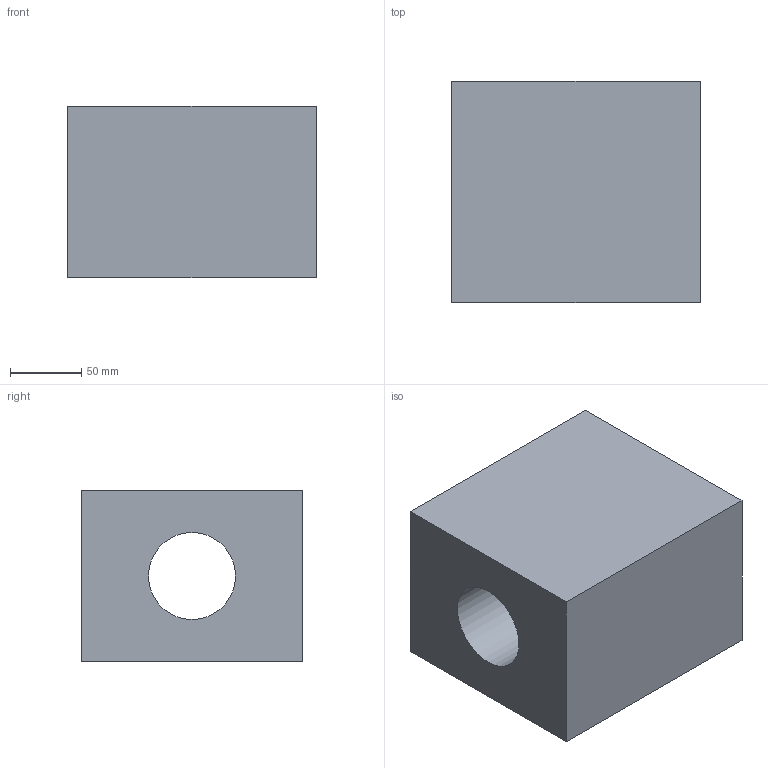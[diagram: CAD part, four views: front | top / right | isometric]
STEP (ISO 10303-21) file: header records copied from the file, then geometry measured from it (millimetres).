
FILE_DESCRIPTION(('Open CASCADE Model'),'2;1');
FILE_NAME('Open CASCADE Shape Model','2026-10-08T06:53:14',('Author'),( 'Open CASCADE'),'Open CASCADE STEP processor 7.8','Open CASCADE 7.8' ,'Unknown');
FILE_SCHEMA(('AUTOMOTIVE_DESIGN { 1 0 10303 214 1 1 1 1 }'));
Length unit declared in the file: millimetre
Products named in the file (1): Open CASCADE STEP translator 7.8 18
Bounding box: 174 x 155 x 120 mm (x, y, z)
Volume: 2727890.8 mm3; surface area: 160399.9 mm2
Topology: 1 solids, 1 shells, 7 faces, 15 edges, 10 vertices
Faces by surface type: plane 6, cylinder 1
Full cylindrical faces by diameter (mm): 61 x1
Entity records: 406 total; most frequent: CARTESIAN_POINT 75, DIRECTION 61, LINE 41, VECTOR 41, ORIENTED_EDGE 30, PCURVE 30, DEFINITIONAL_REPRESENTATION 30, EDGE_CURVE 15
